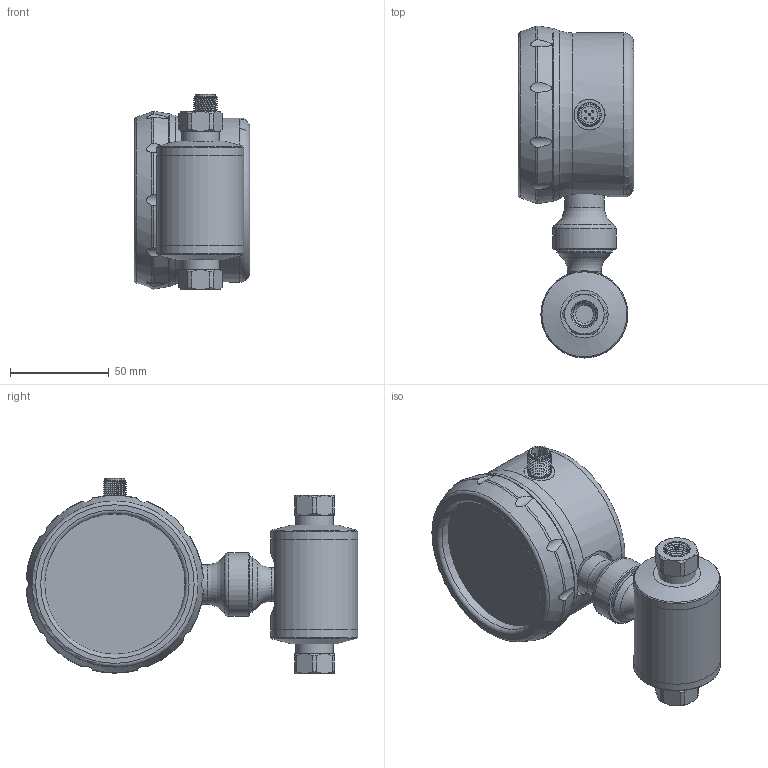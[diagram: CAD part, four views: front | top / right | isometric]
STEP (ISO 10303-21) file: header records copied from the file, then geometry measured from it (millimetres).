
FILE_DESCRIPTION( (''), '2;1');
FILE_NAME( 'QMKD_DN4_H25.4_female-thread.step', '2024-08-30T09:32:23+08:00', (''), (''), '', '', '');
FILE_SCHEMA (('AUTOMOTIVE_DESIGN { 1 0 10303 214 3 1 1 1 }'));
Length unit declared in the file: millimetre
Products named in the file (1): QMKD DN4_H25.4_female-thread
Bounding box: 58.5 x 167.81 x 98.6 mm (x, y, z)
Volume: 442842 mm3; surface area: 80341.7 mm2
Topology: 11 solids, 11 shells, 250 faces, 594 edges, 376 vertices
Faces by surface type: cylinder 92, plane 57, cone 47, sphere 20, torus 18, bspline 16
Full cylindrical faces by diameter (mm): 9 x2, 11.6 x2, 15 x2, 15.5 x1, 17 x1, 18 x2, 19 x2, 20 x1, 26 x1, 28 x1, 32 x1, 38 x2, 44 x3, 71 x1, 80 x2, 83 x1
Entity records: 11950 total; most frequent: CARTESIAN_POINT 6750, DIRECTION 1021, ORIENTED_EDGE 996, EDGE_CURVE 498, AXIS2_PLACEMENT_3D 471, VERTEX_POINT 347, EDGE_LOOP 331, ADVANCED_FACE 249
